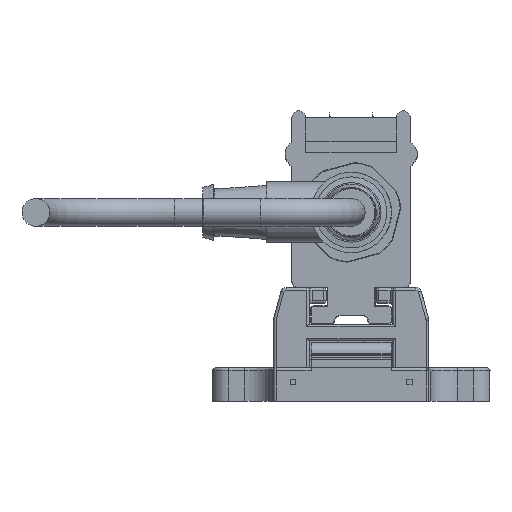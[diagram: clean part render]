
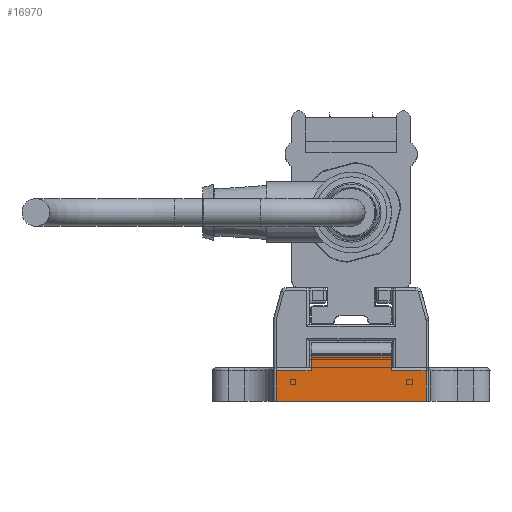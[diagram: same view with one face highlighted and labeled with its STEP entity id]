
A CAD part, left-side view. The second image highlights one B-rep face of the part: STEP entity #16970.
In plain terms, the highlighted planar face has unit normal (-1, 0, 0).
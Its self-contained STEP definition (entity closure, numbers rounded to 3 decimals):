
#16970=ADVANCED_FACE('', (#16980), #16990, .T.);
#90090=AXIS2_PLACEMENT_3D('Ax2Pl3d', #90100, #90110, #90120);
#261770=CARTESIAN_POINT('', (2084.679,16.338,62.275))
;
#261780=CARTESIAN_POINT('', (2084.679,43.334,62.275))
;
#261790=CARTESIAN_POINT('', (2084.679,43.334,62.275))
;
#263770=CARTESIAN_POINT('', (2084.679,37.036,67.775))
;
#263780=CARTESIAN_POINT('', (2084.679,37.036,67.775))
;
#263790=CARTESIAN_POINT('', (2084.679,37.036,70.875))
;
#263830=CARTESIAN_POINT('', (2084.679,22.636,70.875))
;
#263840=CARTESIAN_POINT('', (2084.679,22.636,70.875))
;
#263850=CARTESIAN_POINT('', (2084.679,22.636,67.775))
;
#263960=CARTESIAN_POINT('', (2084.679,37.036,67.775))
;
#263970=CARTESIAN_POINT('', (2084.679,43.334,67.775))
;
#263980=CARTESIAN_POINT('', (2084.679,16.338,67.775))
;
#263990=CARTESIAN_POINT('', (2084.679,16.338,67.775))
;
#264270=CARTESIAN_POINT('', (2084.679,16.338,67.775))
;
#90100=CARTESIAN_POINT('HicPkt', (2084.679,37.036,
70.875));
#264280=CARTESIAN_POINT('', (2084.679,22.636,70.875))
;
#264290=CARTESIAN_POINT('', (2084.679,43.334,62.275))
;
#417990=DIRECTION('', (0.,1.,0.));
#418840=DIRECTION('', (0.,0.,-1.));
#418860=DIRECTION('', (0.,0.,1.));
#418910=DIRECTION('', (0.,-1.,0.));
#418920=DIRECTION('', (0.,-1.,0.));
#419060=DIRECTION('', (0.,0.,1.));
#90110=DIRECTION('Axis', (-1.,0.,0.)
);
#90120=DIRECTION('RefDirection', (0.,
0.,-1.));
#419070=DIRECTION('', (0.,-1.,0.));
#419080=DIRECTION('', (0.,0.,-1.));
#456610=EDGE_CURVE('', #456600, #456620, #456630, .T.);
#459870=EDGE_CURVE('', #459880, #459860, #459890, .T.);
#459970=EDGE_CURVE('', #459980, #459960, #459990, .T.);
#460180=EDGE_CURVE('', #460190, #459860, #460200, .T.);
#460220=EDGE_CURVE('', #459980, #460230, #460240, .T.);
#460760=EDGE_CURVE('', #456600, #460230, #460770, .T.);
#460780=EDGE_CURVE('', #459880, #459960, #460790, .T.);
#460800=EDGE_CURVE('', #460190, #456620, #460810, .T.);
#546200=EDGE_LOOP('Edge_loop', (#546210,#546220,#546230,#546240,
#546250,#546260,#546270,#546280));
#16980=FACE_OUTER_BOUND('Face_outer_bound', #546200, .T.);
#456630=LINE('Line', #261780, #617780);
#459890=LINE('Line', #263780, #618630);
#459990=LINE('Line', #263840, #618650);
#460200=LINE('Line', #263960, #618700);
#460240=LINE('Line', #263980, #618710);
#460770=LINE('Line', #264270, #618850);
#460790=LINE('Line', #264280, #618860);
#460810=LINE('Line', #264290, #618870);
#546210=ORIENTED_EDGE('', *, *, #460780, .F.);
#546220=ORIENTED_EDGE('', *, *, #459870, .T.);
#546230=ORIENTED_EDGE('', *, *, #460180, .F.);
#546240=ORIENTED_EDGE('', *, *, #460800, .T.);
#546250=ORIENTED_EDGE('', *, *, #456610, .F.);
#546260=ORIENTED_EDGE('', *, *, #460760, .T.);
#546270=ORIENTED_EDGE('', *, *, #460220, .F.);
#546280=ORIENTED_EDGE('', *, *, #459970, .T.);
#16990=PLANE('Plane', #90090);
#617780=VECTOR('', #417990, 26.996);
#618630=VECTOR('', #418840, 3.1);
#618650=VECTOR('', #418860, 3.1);
#618700=VECTOR('', #418910, 6.298);
#618710=VECTOR('', #418920, 6.298);
#618850=VECTOR('', #419060, 5.5);
#618860=VECTOR('', #419070, 14.4);
#618870=VECTOR('', #419080, 5.5);
#456600=VERTEX_POINT('', #261770);
#456620=VERTEX_POINT('', #261790);
#459860=VERTEX_POINT('', #263770);
#459880=VERTEX_POINT('', #263790);
#459960=VERTEX_POINT('', #263830);
#459980=VERTEX_POINT('', #263850);
#460190=VERTEX_POINT('', #263970);
#460230=VERTEX_POINT('', #263990);
